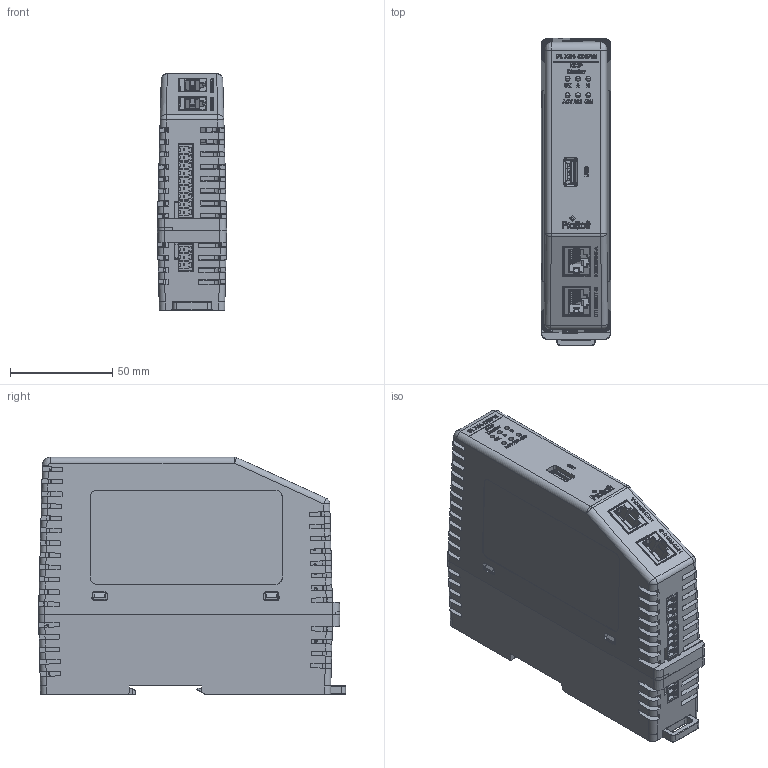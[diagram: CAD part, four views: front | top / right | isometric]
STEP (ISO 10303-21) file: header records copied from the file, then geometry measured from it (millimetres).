
FILE_DESCRIPTION (( 'STEP AP214' ), '1' );
FILE_NAME ('PLX51-DNPM.STEP', '2020-09-14T21:14:11', ( '' ), ( '' ), 'SwSTEP 2.0', 'SolidWorks 2020', '' );
FILE_SCHEMA (( 'AUTOMOTIVE_DESIGN' ));
Length unit declared in the file: millimetre
Products named in the file (16): M-UE27-AC54-100-REVG1-2; M-UE27-AC54-100-REVG1-1; Clip_PCD; PCD_Dual_R02_Profibus_DP; PCD_BASE_A_01; PLX51-DNPM; Part1.SLDPRT; USB; JD1-0003NL1; M-UE27-AC54-100-REVG1-4; TriLED; PCD_LID_A_02_Rev4B_PLX51-DNPM; DipSwitch; M-UE27-AC54-100-REVG1-3; Socket9; Socket3a
Assembly tree (17 placements, depth 3):
  PLX51-DNPM
    PCD_BASE_A_01
    PCD_LID_A_02_Rev4B_PLX51-DNPM
    PCD_Dual_R02_Profibus_DP
    TriLED  x2
    DipSwitch
    JD1-0003NL1  x2
    Socket3a
    Socket9
    Clip_PCD
    USB
      Part1.SLDPRT
      M-UE27-AC54-100-REVG1-1
      M-UE27-AC54-100-REVG1-2
      M-UE27-AC54-100-REVG1-3
      M-UE27-AC54-100-REVG1-4
Bounding box: 34.03 x 150.33 x 116.3 mm (x, y, z)
Volume: 78067.5 mm3; surface area: 146684.9 mm2
Topology: 13 solids, 20 shells, 6522 faces, 17869 edges, 11357 vertices
Faces by surface type: plane 3996, cylinder 1445, bspline 676, cone 158, torus 134, sphere 113
Entity records: 205618 total; most frequent: CARTESIAN_POINT 57134, ORIENTED_EDGE 29866, DIRECTION 25128, EDGE_CURVE 14953, LINE 10462, VECTOR 10462, VERTEX_POINT 9522, AXIS2_PLACEMENT_3D 7333
